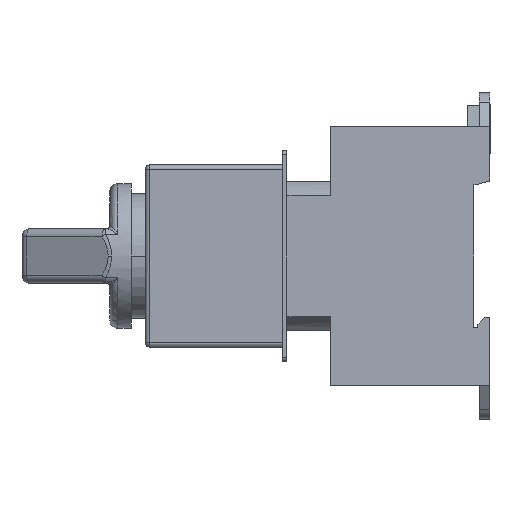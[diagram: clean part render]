
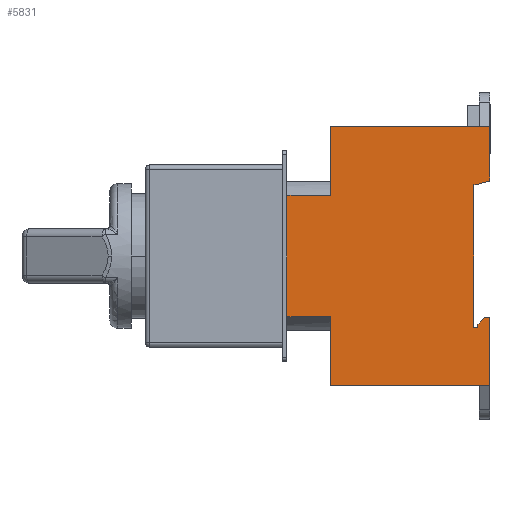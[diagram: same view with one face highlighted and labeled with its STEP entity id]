
A CAD part, left-side view. The second image highlights one B-rep face of the part: STEP entity #5831.
In plain terms, the highlighted planar face has unit normal (-1, 0, 0).
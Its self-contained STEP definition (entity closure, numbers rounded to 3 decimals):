
#29 = CARTESIAN_POINT ( 'NONE',  ( -24., 3.3, 17.65 ) ) ;
#39 = VERTEX_POINT ( 'NONE', #29 ) ;
#196 = VECTOR ( 'NONE', #1954, 1000. ) ;
#205 = VECTOR ( 'NONE', #1284, 1000. ) ;
#336 = ORIENTED_EDGE ( 'NONE', *, *, #826, .F. ) ;
#598 = VECTOR ( 'NONE', #5720, 1000. ) ;
#615 = DIRECTION ( 'NONE',  ( 0., 1., 0. ) ) ;
#658 = CARTESIAN_POINT ( 'NONE',  ( -24., 50.2, 15. ) ) ;
#698 = DIRECTION ( 'NONE',  ( 0., 0., -1. ) ) ;
#701 = LINE ( 'NONE', #1655, #196 ) ;
#717 = CARTESIAN_POINT ( 'NONE',  ( -24., 0., 32. ) ) ;
#826 = EDGE_CURVE ( 'NONE', #5735, #6273, #5551, .T. ) ;
#894 = VERTEX_POINT ( 'NONE', #658 ) ;
#928 = EDGE_CURVE ( 'NONE', #6096, #1759, #5395, .T. ) ;
#965 = VECTOR ( 'NONE', #2055, 1000. ) ;
#970 = ORIENTED_EDGE ( 'NONE', *, *, #2239, .F. ) ;
#1011 = CARTESIAN_POINT ( 'NONE',  ( -24., -3.225, -10.625 ) ) ;
#1066 = CARTESIAN_POINT ( 'NONE',  ( -24., 0., -32. ) ) ;
#1144 = VERTEX_POINT ( 'NONE', #6564 ) ;
#1156 = AXIS2_PLACEMENT_3D ( 'NONE', #5359, #5045, #5029 ) ;
#1260 = CARTESIAN_POINT ( 'NONE',  ( -24., 3., -16.85 ) ) ;
#1284 = DIRECTION ( 'NONE',  ( 0., 0., 1. ) ) ;
#1292 = ORIENTED_EDGE ( 'NONE', *, *, #1818, .F. ) ;
#1339 = ORIENTED_EDGE ( 'NONE', *, *, #2951, .F. ) ;
#1394 = ORIENTED_EDGE ( 'NONE', *, *, #1763, .F. ) ;
#1621 = VERTEX_POINT ( 'NONE', #1692 ) ;
#1655 = CARTESIAN_POINT ( 'NONE',  ( -24., 0., 32. ) ) ;
#1692 = CARTESIAN_POINT ( 'NONE',  ( -24., 39.4, 15. ) ) ;
#1759 = VERTEX_POINT ( 'NONE', #4628 ) ;
#1763 = EDGE_CURVE ( 'NONE', #1759, #5923, #3300, .T. ) ;
#1783 = VECTOR ( 'NONE', #6296, 1000. ) ;
#1818 = EDGE_CURVE ( 'NONE', #5923, #5735, #701, .T. ) ;
#1819 = CARTESIAN_POINT ( 'NONE',  ( -24., 39.4, -15. ) ) ;
#1912 = LINE ( 'NONE', #5139, #3641 ) ;
#1954 = DIRECTION ( 'NONE',  ( 0., 0., -1. ) ) ;
#2000 = VECTOR ( 'NONE', #4311, 1000. ) ;
#2041 = VECTOR ( 'NONE', #3430, 1000. ) ;
#2050 = CARTESIAN_POINT ( 'NONE',  ( -24., 0., 32. ) ) ;
#2055 = DIRECTION ( 'NONE',  ( 0., -1., 0. ) ) ;
#2239 = EDGE_CURVE ( 'NONE', #4139, #6096, #2289, .T. ) ;
#2289 = LINE ( 'NONE', #4310, #4749 ) ;
#2432 = CARTESIAN_POINT ( 'NONE',  ( -24., 39.4, 17.65 ) ) ;
#2462 = DIRECTION ( 'NONE',  ( 0., 1., 0. ) ) ;
#2469 = CARTESIAN_POINT ( 'NONE',  ( -24., 39.4, -15.15 ) ) ;
#2672 = VECTOR ( 'NONE', #2462, 1000. ) ;
#2673 = CARTESIAN_POINT ( 'NONE',  ( -24., 50.2, -15. ) ) ;
#2689 = EDGE_CURVE ( 'NONE', #1621, #6537, #3873, .T. ) ;
#2696 = CARTESIAN_POINT ( 'NONE',  ( -24., 39.4, 32. ) ) ;
#2698 = LINE ( 'NONE', #3599, #5384 ) ;
#2710 = EDGE_CURVE ( 'NONE', #6412, #39, #4272, .T. ) ;
#2773 = ORIENTED_EDGE ( 'NONE', *, *, #6124, .F. ) ;
#2897 = VERTEX_POINT ( 'NONE', #5909 ) ;
#2951 = EDGE_CURVE ( 'NONE', #3997, #894, #1912, .T. ) ;
#3292 = CARTESIAN_POINT ( 'NONE',  ( -24., 0., -15.15 ) ) ;
#3300 = LINE ( 'NONE', #2469, #5517 ) ;
#3391 = EDGE_CURVE ( 'NONE', #2897, #3997, #6501, .T. ) ;
#3398 = VECTOR ( 'NONE', #5683, 1000. ) ;
#3430 = DIRECTION ( 'NONE',  ( 0., 0.966, -0.259 ) ) ;
#3463 = VERTEX_POINT ( 'NONE', #4837 ) ;
#3503 = DIRECTION ( 'NONE',  ( 0., -1., 0. ) ) ;
#3599 = CARTESIAN_POINT ( 'NONE',  ( -24., 0., 32. ) ) ;
#3616 = DIRECTION ( 'NONE',  ( 0., -1., 0. ) ) ;
#3641 = VECTOR ( 'NONE', #6209, 1000. ) ;
#3663 = ORIENTED_EDGE ( 'NONE', *, *, #4916, .F. ) ;
#3824 = EDGE_CURVE ( 'NONE', #3463, #1144, #5939, .T. ) ;
#3873 = LINE ( 'NONE', #2696, #3398 ) ;
#3997 = VERTEX_POINT ( 'NONE', #5115 ) ;
#4004 = ORIENTED_EDGE ( 'NONE', *, *, #2689, .F. ) ;
#4010 = ORIENTED_EDGE ( 'NONE', *, *, #5692, .F. ) ;
#4022 = EDGE_CURVE ( 'NONE', #1144, #4139, #4782, .T. ) ;
#4139 = VERTEX_POINT ( 'NONE', #4462 ) ;
#4247 = EDGE_LOOP ( 'NONE', ( #5180, #2773, #3663, #4004, #6567, #1339, #4593, #4010, #336, #1292, #1394, #4939, #970, #4302, #4301, #5143 ) ) ;
#4272 = LINE ( 'NONE', #5418, #2041 ) ;
#4301 = ORIENTED_EDGE ( 'NONE', *, *, #3824, .F. ) ;
#4302 = ORIENTED_EDGE ( 'NONE', *, *, #4022, .F. ) ;
#4310 = CARTESIAN_POINT ( 'NONE',  ( -24., 3., 32. ) ) ;
#4311 = DIRECTION ( 'NONE',  ( 0., -1., 0. ) ) ;
#4390 = DIRECTION ( 'NONE',  ( 0., 0., 1. ) ) ;
#4412 = FACE_OUTER_BOUND ( 'NONE', #4247, .T. ) ;
#4462 = CARTESIAN_POINT ( 'NONE',  ( -24., 3., -17.65 ) ) ;
#4471 = CARTESIAN_POINT ( 'NONE',  ( -24., 39.4, 15. ) ) ;
#4543 = CARTESIAN_POINT ( 'NONE',  ( -24., 0., 18.534 ) ) ;
#4593 = ORIENTED_EDGE ( 'NONE', *, *, #3391, .F. ) ;
#4628 = CARTESIAN_POINT ( 'NONE',  ( -24., 1.3, -15.15 ) ) ;
#4675 = LINE ( 'NONE', #717, #6453 ) ;
#4749 = VECTOR ( 'NONE', #4390, 1000. ) ;
#4759 = VECTOR ( 'NONE', #5821, 1000. ) ;
#4782 = LINE ( 'NONE', #6122, #965 ) ;
#4837 = CARTESIAN_POINT ( 'NONE',  ( -24., 4., 17.65 ) ) ;
#4916 = EDGE_CURVE ( 'NONE', #6537, #4940, #2698, .T. ) ;
#4926 = LINE ( 'NONE', #2432, #2672 ) ;
#4939 = ORIENTED_EDGE ( 'NONE', *, *, #928, .F. ) ;
#4940 = VERTEX_POINT ( 'NONE', #2050 ) ;
#5029 = DIRECTION ( 'NONE',  ( 0., 0., 1. ) ) ;
#5045 = DIRECTION ( 'NONE',  ( -1., 0., 0. ) ) ;
#5080 = CARTESIAN_POINT ( 'NONE',  ( -24., 39.4, 32. ) ) ;
#5115 = CARTESIAN_POINT ( 'NONE',  ( -24., 50.2, -15. ) ) ;
#5139 = CARTESIAN_POINT ( 'NONE',  ( -24., 50.2, 15. ) ) ;
#5143 = ORIENTED_EDGE ( 'NONE', *, *, #5990, .F. ) ;
#5180 = ORIENTED_EDGE ( 'NONE', *, *, #2710, .F. ) ;
#5272 = CARTESIAN_POINT ( 'NONE',  ( -24., 39.4, -32. ) ) ;
#5281 = PLANE ( 'NONE',  #1156 ) ;
#5359 = CARTESIAN_POINT ( 'NONE',  ( -24., 39.4, 32. ) ) ;
#5384 = VECTOR ( 'NONE', #3616, 1000. ) ;
#5386 = EDGE_CURVE ( 'NONE', #894, #1621, #6321, .T. ) ;
#5395 = LINE ( 'NONE', #1011, #4759 ) ;
#5418 = CARTESIAN_POINT ( 'NONE',  ( -24., 33.394, 9.586 ) ) ;
#5517 = VECTOR ( 'NONE', #3503, 1000. ) ;
#5551 = LINE ( 'NONE', #1066, #5635 ) ;
#5635 = VECTOR ( 'NONE', #615, 1000. ) ;
#5683 = DIRECTION ( 'NONE',  ( 0., 0., 1. ) ) ;
#5692 = EDGE_CURVE ( 'NONE', #6273, #2897, #6284, .T. ) ;
#5720 = DIRECTION ( 'NONE',  ( 0., 0., -1. ) ) ;
#5735 = VERTEX_POINT ( 'NONE', #6423 ) ;
#5756 = CARTESIAN_POINT ( 'NONE',  ( -24., 4., 32. ) ) ;
#5821 = DIRECTION ( 'NONE',  ( 0., -0.707, 0.707 ) ) ;
#5831 = ADVANCED_FACE ( 'NONE', ( #4412 ), #5281, .T. ) ;
#5909 = CARTESIAN_POINT ( 'NONE',  ( -24., 39.4, -15. ) ) ;
#5923 = VERTEX_POINT ( 'NONE', #3292 ) ;
#5939 = LINE ( 'NONE', #5756, #598 ) ;
#5990 = EDGE_CURVE ( 'NONE', #39, #3463, #4926, .T. ) ;
#6096 = VERTEX_POINT ( 'NONE', #1260 ) ;
#6122 = CARTESIAN_POINT ( 'NONE',  ( -24., 39.4, -17.65 ) ) ;
#6124 = EDGE_CURVE ( 'NONE', #4940, #6412, #4675, .T. ) ;
#6209 = DIRECTION ( 'NONE',  ( 0., 0., 1. ) ) ;
#6273 = VERTEX_POINT ( 'NONE', #5272 ) ;
#6284 = LINE ( 'NONE', #1819, #205 ) ;
#6296 = DIRECTION ( 'NONE',  ( 0., 1., 0. ) ) ;
#6321 = LINE ( 'NONE', #4471, #2000 ) ;
#6412 = VERTEX_POINT ( 'NONE', #4543 ) ;
#6423 = CARTESIAN_POINT ( 'NONE',  ( -24., 0., -32. ) ) ;
#6453 = VECTOR ( 'NONE', #698, 1000. ) ;
#6501 = LINE ( 'NONE', #2673, #1783 ) ;
#6537 = VERTEX_POINT ( 'NONE', #5080 ) ;
#6564 = CARTESIAN_POINT ( 'NONE',  ( -24., 4., -17.65 ) ) ;
#6567 = ORIENTED_EDGE ( 'NONE', *, *, #5386, .F. ) ;
